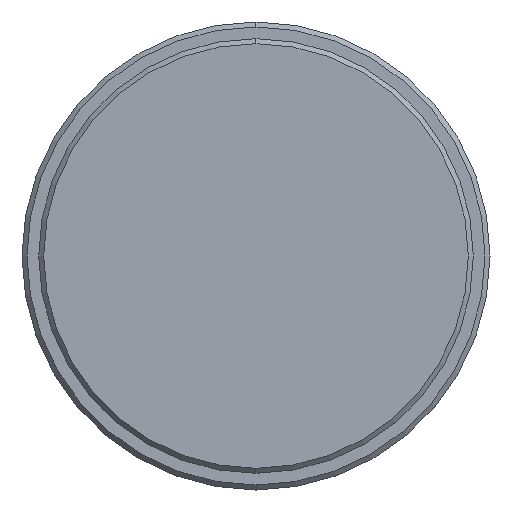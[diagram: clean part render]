
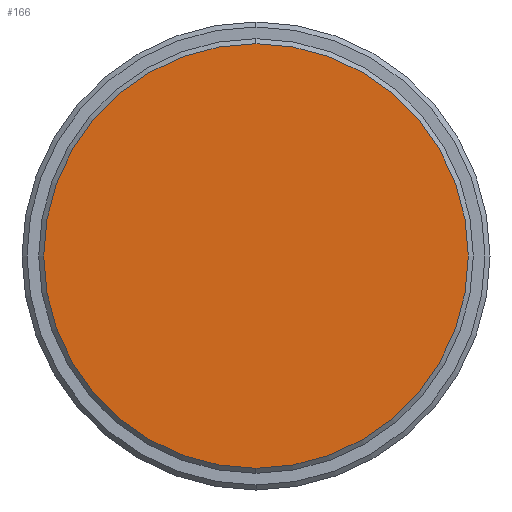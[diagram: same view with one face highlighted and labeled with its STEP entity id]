
A CAD part, left-side view. The second image highlights one B-rep face of the part: STEP entity #166.
In plain terms, the highlighted planar face has unit normal (-1, 0, 0).
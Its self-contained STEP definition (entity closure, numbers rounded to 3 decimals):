
#9 = ORIENTED_EDGE ( 'NONE', *, *, #695, .T. ) ;
#50 = CARTESIAN_POINT ( 'NONE',  ( 0., 0., 0. ) ) ;
#105 = CARTESIAN_POINT ( 'NONE',  ( 0., 0., 12.7 ) ) ;
#111 = CARTESIAN_POINT ( 'NONE',  ( 0., 0., 0. ) ) ;
#112 = DIRECTION ( 'NONE',  ( -1., 0., 0. ) ) ;
#166 = ADVANCED_FACE ( 'NONE', ( #484 ), #446, .F. ) ;
#169 = DIRECTION ( 'NONE',  ( 0., 0., 1. ) ) ;
#176 = CARTESIAN_POINT ( 'NONE',  ( 0., 0., 0. ) ) ;
#218 = DIRECTION ( 'NONE',  ( 0., 0., 1. ) ) ;
#252 = EDGE_LOOP ( 'NONE', ( #500, #9 ) ) ;
#280 = DIRECTION ( 'NONE',  ( 1., 0., 0. ) ) ;
#292 = AXIS2_PLACEMENT_3D ( 'NONE', #50, #611, #218 ) ;
#305 = AXIS2_PLACEMENT_3D ( 'NONE', #176, #112, #169 ) ;
#307 = AXIS2_PLACEMENT_3D ( 'NONE', #111, #280, #676 ) ;
#375 = VERTEX_POINT ( 'NONE', #595 ) ;
#446 = PLANE ( 'NONE',  #307 ) ;
#478 = EDGE_CURVE ( 'NONE', #375, #583, #609, .T. ) ;
#484 = FACE_OUTER_BOUND ( 'NONE', #252, .T. ) ;
#500 = ORIENTED_EDGE ( 'NONE', *, *, #478, .T. ) ;
#564 = CIRCLE ( 'NONE', #305, 12.7 ) ;
#583 = VERTEX_POINT ( 'NONE', #105 ) ;
#595 = CARTESIAN_POINT ( 'NONE',  ( 0., 0., -12.7 ) ) ;
#609 = CIRCLE ( 'NONE', #292, 12.7 ) ;
#611 = DIRECTION ( 'NONE',  ( -1., 0., 0. ) ) ;
#676 = DIRECTION ( 'NONE',  ( 0., 0., -1. ) ) ;
#695 = EDGE_CURVE ( 'NONE', #583, #375, #564, .T. ) ;
